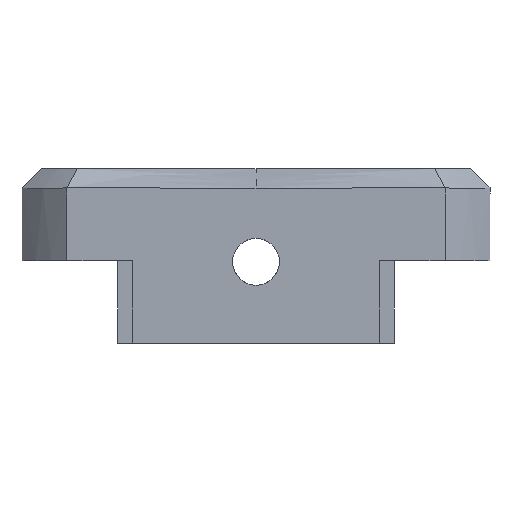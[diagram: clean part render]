
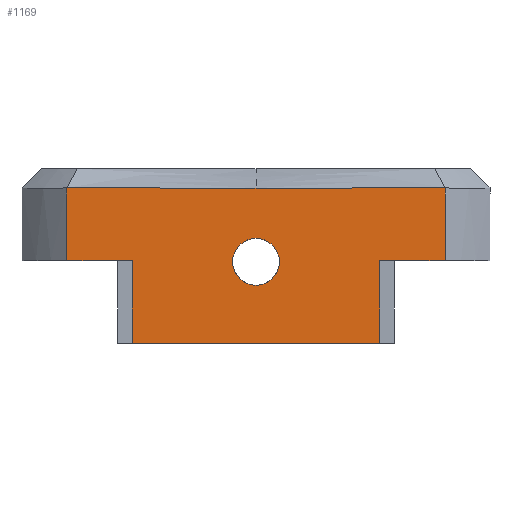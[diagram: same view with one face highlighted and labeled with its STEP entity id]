
A CAD part, front view. The second image highlights one B-rep face of the part: STEP entity #1169.
In plain terms, the highlighted planar face has unit normal (0, -1, 0).
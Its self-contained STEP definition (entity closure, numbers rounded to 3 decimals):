
#15 = CARTESIAN_POINT ( 'NONE',  ( 0., -21., 19.6 ) ) ;
#37 = CARTESIAN_POINT ( 'NONE',  ( 0., -21., 15.4 ) ) ;
#78 = ORIENTED_EDGE ( 'NONE', *, *, #116, .T. ) ;
#84 = DIRECTION ( 'NONE',  ( -1., 0., 0. ) ) ;
#98 = CARTESIAN_POINT ( 'NONE',  ( 0., -21., 17.5 ) ) ;
#99 = ORIENTED_EDGE ( 'NONE', *, *, #488, .F. ) ;
#103 = EDGE_CURVE ( 'NONE', #1098, #472, #1281, .T. ) ;
#106 = DIRECTION ( 'NONE',  ( 0., 0., 1. ) ) ;
#116 = EDGE_CURVE ( 'NONE', #274, #314, #1142, .T. ) ;
#118 = B_SPLINE_CURVE_WITH_KNOTS ( 'NONE', 3,
 ( #1252, #1022, #635, #776 ),
 .UNSPECIFIED., .F., .F.,
 ( 4, 4 ),
 ( 0., 0. ),
 .UNSPECIFIED. ) ;
#123 = AXIS2_PLACEMENT_3D ( 'NONE', #757, #1260, #1141 ) ;
#128 = DIRECTION ( 'NONE',  ( 0., 0., 1. ) ) ;
#177 = EDGE_LOOP ( 'NONE', ( #78, #99, #898, #1115, #445, #558, #1382, #1145, #947, #1178, #972 ) ) ;
#197 = CARTESIAN_POINT ( 'NONE',  ( 16.971, -21., 25.75 ) ) ;
#245 = CARTESIAN_POINT ( 'NONE',  ( 0., -21., 24.115 ) ) ;
#247 = CARTESIAN_POINT ( 'NONE',  ( -11.1, -21., 10.2 ) ) ;
#249 = AXIS2_PLACEMENT_3D ( 'NONE', #98, #608, #369 ) ;
#252 = CIRCLE ( 'NONE', #249, 2.1 ) ;
#254 = LINE ( 'NONE', #269, #1589 ) ;
#269 = CARTESIAN_POINT ( 'NONE',  ( 0., -21., 17.6 ) ) ;
#274 = VERTEX_POINT ( 'NONE', #1203 ) ;
#314 = VERTEX_POINT ( 'NONE', #1327 ) ;
#327 = DIRECTION ( 'NONE',  ( 0., 0., -1. ) ) ;
#333 = CARTESIAN_POINT ( 'NONE',  ( 0., -21., 17.5 ) ) ;
#356 = CARTESIAN_POINT ( 'NONE',  ( -5.653, -21., 24.119 ) ) ;
#369 = DIRECTION ( 'NONE',  ( 0., 0., -1. ) ) ;
#409 = CIRCLE ( 'NONE', #1130, 2.1 ) ;
#434 = VECTOR ( 'NONE', #84, 1000. ) ;
#445 = ORIENTED_EDGE ( 'NONE', *, *, #962, .T. ) ;
#458 = EDGE_CURVE ( 'NONE', #1201, #906, #1262, .T. ) ;
#472 = VERTEX_POINT ( 'NONE', #1623 ) ;
#488 = EDGE_CURVE ( 'NONE', #919, #314, #861, .T. ) ;
#520 = VECTOR ( 'NONE', #106, 1000. ) ;
#527 = CARTESIAN_POINT ( 'NONE',  ( -16.959, -21., 24.14 ) ) ;
#545 = FACE_BOUND ( 'NONE', #1495, .T. ) ;
#558 = ORIENTED_EDGE ( 'NONE', *, *, #831, .F. ) ;
#581 = CARTESIAN_POINT ( 'NONE',  ( 16.971, -21., 24.133 ) ) ;
#590 = DIRECTION ( 'NONE',  ( 0., 0., -1. ) ) ;
#593 = LINE ( 'NONE', #703, #520 ) ;
#608 = DIRECTION ( 'NONE',  ( 0., -1., 0. ) ) ;
#635 = CARTESIAN_POINT ( 'NONE',  ( -16.967, -21., 24.135 ) ) ;
#637 = DIRECTION ( 'NONE',  ( 1., 0., 0. ) ) ;
#686 = VERTEX_POINT ( 'NONE', #37 ) ;
#693 = VERTEX_POINT ( 'NONE', #1393 ) ;
#703 = CARTESIAN_POINT ( 'NONE',  ( 11.1, -21., 10.2 ) ) ;
#708 = DIRECTION ( 'NONE',  ( 0., -1., 0. ) ) ;
#744 = CARTESIAN_POINT ( 'NONE',  ( 11.306, -21., 24.123 ) ) ;
#748 = CARTESIAN_POINT ( 'NONE',  ( -11.1, -21., 10.2 ) ) ;
#757 = CARTESIAN_POINT ( 'NONE',  ( -19.428, -21., 17.544 ) ) ;
#776 = CARTESIAN_POINT ( 'NONE',  ( -16.971, -21., 24.133 ) ) ;
#791 = VERTEX_POINT ( 'NONE', #798 ) ;
#798 = CARTESIAN_POINT ( 'NONE',  ( 11.1, -21., 17.6 ) ) ;
#814 = CARTESIAN_POINT ( 'NONE',  ( -16.971, -21., 24.133 ) ) ;
#831 = EDGE_CURVE ( 'NONE', #1201, #1607, #1557, .T. ) ;
#861 = LINE ( 'NONE', #247, #976 ) ;
#880 = CARTESIAN_POINT ( 'NONE',  ( 0., -21., 17.6 ) ) ;
#898 = ORIENTED_EDGE ( 'NONE', *, *, #1523, .F. ) ;
#906 = VERTEX_POINT ( 'NONE', #1373 ) ;
#919 = VERTEX_POINT ( 'NONE', #748 ) ;
#940 = VERTEX_POINT ( 'NONE', #15 ) ;
#947 = ORIENTED_EDGE ( 'NONE', *, *, #103, .F. ) ;
#953 = VECTOR ( 'NONE', #637, 1000. ) ;
#957 = CARTESIAN_POINT ( 'NONE',  ( -11.306, -21., 24.123 ) ) ;
#962 = EDGE_CURVE ( 'NONE', #791, #1607, #254, .T. ) ;
#968 = CARTESIAN_POINT ( 'NONE',  ( 16.959, -21., 24.14 ) ) ;
#972 = ORIENTED_EDGE ( 'NONE', *, *, #1225, .T. ) ;
#973 = VECTOR ( 'NONE', #1585, 1000. ) ;
#976 = VECTOR ( 'NONE', #128, 1000. ) ;
#999 = CARTESIAN_POINT ( 'NONE',  ( 16.971, -21., 17.6 ) ) ;
#1022 = CARTESIAN_POINT ( 'NONE',  ( -16.963, -21., 24.137 ) ) ;
#1028 = LINE ( 'NONE', #1073, #434 ) ;
#1029 = FACE_OUTER_BOUND ( 'NONE', #177, .T. ) ;
#1073 = CARTESIAN_POINT ( 'NONE',  ( 11.1, -21., 10.2 ) ) ;
#1081 = CARTESIAN_POINT ( 'NONE',  ( -16.959, -21., 24.14 ) ) ;
#1098 = VERTEX_POINT ( 'NONE', #527 ) ;
#1100 = CARTESIAN_POINT ( 'NONE',  ( 0., -21., 24.115 ) ) ;
#1103 = EDGE_CURVE ( 'NONE', #1098, #1544, #118, .T. ) ;
#1115 = ORIENTED_EDGE ( 'NONE', *, *, #1511, .T. ) ;
#1130 = AXIS2_PLACEMENT_3D ( 'NONE', #333, #708, #590 ) ;
#1141 = DIRECTION ( 'NONE',  ( 0., 0., 1. ) ) ;
#1142 = LINE ( 'NONE', #880, #953 ) ;
#1145 = ORIENTED_EDGE ( 'NONE', *, *, #1415, .F. ) ;
#1169 = ADVANCED_FACE ( 'NONE', ( #545, #1029 ), #1537, .F. ) ;
#1178 = ORIENTED_EDGE ( 'NONE', *, *, #1103, .T. ) ;
#1198 = CARTESIAN_POINT ( 'NONE',  ( -16.971, -21., 25.75 ) ) ;
#1201 = VERTEX_POINT ( 'NONE', #581 ) ;
#1203 = CARTESIAN_POINT ( 'NONE',  ( -16.971, -21., 17.6 ) ) ;
#1225 = EDGE_CURVE ( 'NONE', #1544, #274, #1290, .T. ) ;
#1242 = CARTESIAN_POINT ( 'NONE',  ( 16.959, -21., 24.14 ) ) ;
#1251 = CARTESIAN_POINT ( 'NONE',  ( 16.971, -21., 24.133 ) ) ;
#1252 = CARTESIAN_POINT ( 'NONE',  ( -16.959, -21., 24.14 ) ) ;
#1259 = CARTESIAN_POINT ( 'NONE',  ( 16.963, -21., 24.137 ) ) ;
#1260 = DIRECTION ( 'NONE',  ( 0., 1., 0. ) ) ;
#1262 = B_SPLINE_CURVE_WITH_KNOTS ( 'NONE', 3,
 ( #1251, #1493, #1259, #1242 ),
 .UNSPECIFIED., .F., .F.,
 ( 4, 4 ),
 ( 0., 0. ),
 .UNSPECIFIED. ) ;
#1281 = B_SPLINE_CURVE_WITH_KNOTS ( 'NONE', 3,
 ( #1081, #957, #356, #1100 ),
 .UNSPECIFIED., .F., .F.,
 ( 4, 4 ),
 ( 0.017, 0.034 ),
 .UNSPECIFIED. ) ;
#1290 = LINE ( 'NONE', #1198, #973 ) ;
#1320 = EDGE_CURVE ( 'NONE', #686, #940, #409, .T. ) ;
#1327 = CARTESIAN_POINT ( 'NONE',  ( -11.1, -21., 17.6 ) ) ;
#1335 = ORIENTED_EDGE ( 'NONE', *, *, #1345, .F. ) ;
#1345 = EDGE_CURVE ( 'NONE', #940, #686, #252, .T. ) ;
#1373 = CARTESIAN_POINT ( 'NONE',  ( 16.959, -21., 24.14 ) ) ;
#1382 = ORIENTED_EDGE ( 'NONE', *, *, #458, .T. ) ;
#1388 = DIRECTION ( 'NONE',  ( 1., 0., 0. ) ) ;
#1393 = CARTESIAN_POINT ( 'NONE',  ( 11.1, -21., 10.2 ) ) ;
#1415 = EDGE_CURVE ( 'NONE', #472, #906, #1492, .T. ) ;
#1463 = CARTESIAN_POINT ( 'NONE',  ( 5.653, -21., 24.119 ) ) ;
#1492 = B_SPLINE_CURVE_WITH_KNOTS ( 'NONE', 3,
 ( #245, #1463, #744, #968 ),
 .UNSPECIFIED., .F., .F.,
 ( 4, 4 ),
 ( 0.008, 0.025 ),
 .UNSPECIFIED. ) ;
#1493 = CARTESIAN_POINT ( 'NONE',  ( 16.967, -21., 24.135 ) ) ;
#1495 = EDGE_LOOP ( 'NONE', ( #1572, #1335 ) ) ;
#1511 = EDGE_CURVE ( 'NONE', #693, #791, #593, .T. ) ;
#1523 = EDGE_CURVE ( 'NONE', #693, #919, #1028, .T. ) ;
#1537 = PLANE ( 'NONE',  #123 ) ;
#1544 = VERTEX_POINT ( 'NONE', #814 ) ;
#1554 = VECTOR ( 'NONE', #327, 1000. ) ;
#1557 = LINE ( 'NONE', #197, #1554 ) ;
#1572 = ORIENTED_EDGE ( 'NONE', *, *, #1320, .F. ) ;
#1585 = DIRECTION ( 'NONE',  ( 0., 0., -1. ) ) ;
#1589 = VECTOR ( 'NONE', #1388, 1000. ) ;
#1607 = VERTEX_POINT ( 'NONE', #999 ) ;
#1623 = CARTESIAN_POINT ( 'NONE',  ( 0., -21., 24.115 ) ) ;
